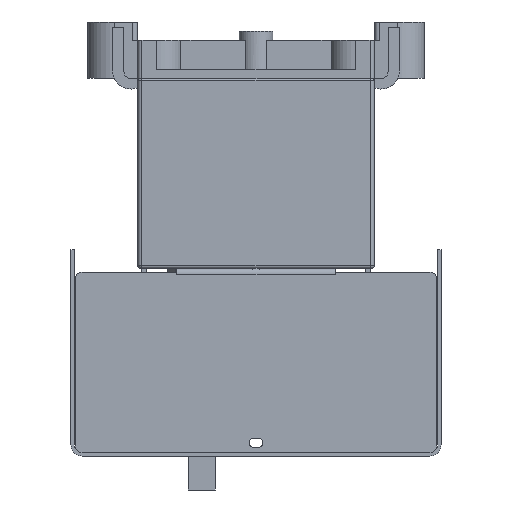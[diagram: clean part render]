
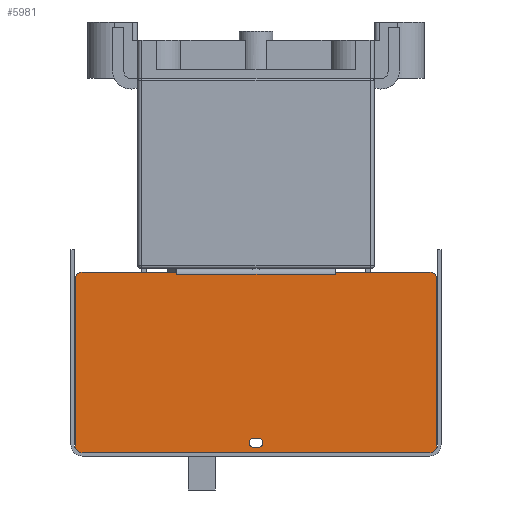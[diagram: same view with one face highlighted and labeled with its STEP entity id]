
A CAD part, left-side view. The second image highlights one B-rep face of the part: STEP entity #5981.
In plain terms, the highlighted planar face has unit normal (-1, 0, 0).
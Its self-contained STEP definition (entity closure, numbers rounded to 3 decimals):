
#610=FACE_BOUND('',#9011,.T.);
#611=FACE_BOUND('',#9012,.T.);
#2213=LINE('',#33514,#4461);
#2220=LINE('',#33532,#4468);
#2226=LINE('',#33549,#4474);
#2230=LINE('',#33562,#4478);
#2235=LINE('',#33579,#4483);
#2236=LINE('',#33584,#4484);
#2241=LINE('',#33597,#4489);
#2242=LINE('',#33599,#4490);
#2243=LINE('',#33601,#4491);
#2244=LINE('',#33603,#4492);
#2245=LINE('',#33605,#4493);
#2246=LINE('',#33607,#4494);
#4461=VECTOR('',#27203,1.);
#4468=VECTOR('',#27216,1.);
#4474=VECTOR('',#27230,1.);
#4478=VECTOR('',#27242,1.);
#4483=VECTOR('',#27261,1.);
#4484=VECTOR('',#27270,1.);
#4489=VECTOR('',#27283,1.);
#4490=VECTOR('',#27286,1.);
#4491=VECTOR('',#27287,1.);
#4492=VECTOR('',#27288,1.);
#4493=VECTOR('',#27289,1.);
#4494=VECTOR('',#27290,1.);
#5981=ADVANCED_FACE('',(#610,#611),#6893,.T.);
#6893=PLANE('',#22760);
#9011=EDGE_LOOP('',(#13243,#13244,#13245,#13246,#13247,#13248,#13249,#13250,
#13251,#13252,#13253,#13254,#13255,#13256));
#9012=EDGE_LOOP('',(#13257,#13258,#13259,#13260));
#13243=ORIENTED_EDGE('',*,*,#19647,.F.);
#13244=ORIENTED_EDGE('',*,*,#19648,.T.);
#13245=ORIENTED_EDGE('',*,*,#19649,.T.);
#13246=ORIENTED_EDGE('',*,*,#19650,.T.);
#13247=ORIENTED_EDGE('',*,*,#19651,.F.);
#13248=ORIENTED_EDGE('',*,*,#19639,.T.);
#13249=ORIENTED_EDGE('',*,*,#19644,.T.);
#13250=ORIENTED_EDGE('',*,*,#19627,.T.);
#13251=ORIENTED_EDGE('',*,*,#19630,.T.);
#13252=ORIENTED_EDGE('',*,*,#19605,.T.);
#13253=ORIENTED_EDGE('',*,*,#19633,.T.);
#13254=ORIENTED_EDGE('',*,*,#19636,.T.);
#13255=ORIENTED_EDGE('',*,*,#19638,.T.);
#13256=ORIENTED_EDGE('',*,*,#19613,.T.);
#13257=ORIENTED_EDGE('',*,*,#19617,.T.);
#13258=ORIENTED_EDGE('',*,*,#19621,.T.);
#13259=ORIENTED_EDGE('',*,*,#19624,.T.);
#13260=ORIENTED_EDGE('',*,*,#19646,.T.);
#16622=VERTEX_POINT('',#32343);
#16667=VERTEX_POINT('',#32440);
#16951=VERTEX_POINT('',#33531);
#16952=VERTEX_POINT('',#33533);
#16955=VERTEX_POINT('',#33540);
#16956=VERTEX_POINT('',#33542);
#16958=VERTEX_POINT('',#33548);
#16960=VERTEX_POINT('',#33554);
#16963=VERTEX_POINT('',#33561);
#16964=VERTEX_POINT('',#33563);
#16966=VERTEX_POINT('',#33572);
#16968=VERTEX_POINT('',#33578);
#16969=VERTEX_POINT('',#33585);
#16970=VERTEX_POINT('',#33586);
#16973=VERTEX_POINT('',#33600);
#16974=VERTEX_POINT('',#33602);
#16975=VERTEX_POINT('',#33604);
#16976=VERTEX_POINT('',#33606);
#19605=EDGE_CURVE('',#16622,#16667,#2213,.T.);
#19613=EDGE_CURVE('',#16952,#16951,#2220,.T.);
#19617=EDGE_CURVE('',#16956,#16955,#21263,.T.);
#19621=EDGE_CURVE('',#16955,#16958,#2226,.T.);
#19624=EDGE_CURVE('',#16958,#16960,#21265,.T.);
#19627=EDGE_CURVE('',#16964,#16963,#2230,.T.);
#19630=EDGE_CURVE('',#16963,#16622,#21267,.T.);
#19633=EDGE_CURVE('',#16667,#16966,#21269,.T.);
#19636=EDGE_CURVE('',#16966,#16968,#2235,.T.);
#19638=EDGE_CURVE('',#16968,#16952,#21271,.T.);
#19639=EDGE_CURVE('',#16969,#16970,#2236,.T.);
#19644=EDGE_CURVE('',#16970,#16964,#21273,.T.);
#19646=EDGE_CURVE('',#16960,#16956,#2241,.T.);
#19647=EDGE_CURVE('',#16973,#16951,#2242,.T.);
#19648=EDGE_CURVE('',#16973,#16974,#2243,.T.);
#19649=EDGE_CURVE('',#16974,#16975,#2244,.T.);
#19650=EDGE_CURVE('',#16975,#16976,#2245,.T.);
#19651=EDGE_CURVE('',#16969,#16976,#2246,.T.);
#21263=CIRCLE('',#22738,2.1);
#21265=CIRCLE('',#22742,2.1);
#21267=CIRCLE('',#22746,3.);
#21269=CIRCLE('',#22749,3.);
#21271=CIRCLE('',#22753,3.);
#21273=CIRCLE('',#22757,3.);
#22738=AXIS2_PLACEMENT_3D('',#33541,#27223,#27224);
#22742=AXIS2_PLACEMENT_3D('',#33555,#27236,#27237);
#22746=AXIS2_PLACEMENT_3D('',#33567,#27248,#27249);
#22749=AXIS2_PLACEMENT_3D('',#33573,#27255,#27256);
#22753=AXIS2_PLACEMENT_3D('',#33582,#27266,#27267);
#22757=AXIS2_PLACEMENT_3D('',#33594,#27278,#27279);
#22760=AXIS2_PLACEMENT_3D('',#33608,#27291,#27292);
#27203=DIRECTION('',(0.,-1.,0.));
#27216=DIRECTION('',(0.,1.,0.));
#27223=DIRECTION('',(1.,0.,0.));
#27224=DIRECTION('',(0.,1.,0.));
#27230=DIRECTION('',(0.,-1.,0.));
#27236=DIRECTION('',(1.,0.,0.));
#27237=DIRECTION('',(0.,1.,0.));
#27242=DIRECTION('',(0.,0.,-1.));
#27248=DIRECTION('',(-1.,0.,0.));
#27249=DIRECTION('',(0.,1.,0.));
#27255=DIRECTION('',(-1.,0.,0.));
#27256=DIRECTION('',(0.,1.,0.));
#27261=DIRECTION('',(0.,0.,1.));
#27266=DIRECTION('',(-1.,0.,0.));
#27267=DIRECTION('',(0.,1.,0.));
#27270=DIRECTION('',(0.,1.,0.));
#27278=DIRECTION('',(-1.,0.,0.));
#27279=DIRECTION('',(0.,1.,0.));
#27283=DIRECTION('',(0.,1.,0.));
#27286=DIRECTION('',(0.,0.,1.));
#27287=DIRECTION('',(0.,1.,0.));
#27288=DIRECTION('',(0.,1.,0.));
#27289=DIRECTION('',(0.,1.,0.));
#27290=DIRECTION('',(0.,0.,-1.));
#27291=DIRECTION('',(-1.,0.,0.));
#27292=DIRECTION('',(0.,-1.,0.));
#32343=CARTESIAN_POINT('',(-189.3,77.,-165.8));
#32440=CARTESIAN_POINT('',(-189.3,-77.,-165.8));
#33514=CARTESIAN_POINT('',(-189.3,77.,-165.8));
#33531=CARTESIAN_POINT('',(-189.3,-35.002,-85.8));
#33532=CARTESIAN_POINT('',(-189.3,-77.,-85.8));
#33533=CARTESIAN_POINT('',(-189.3,-77.,-85.8));
#33540=CARTESIAN_POINT('',(-189.3,1.,-159.3));
#33541=CARTESIAN_POINT('',(-189.3,1.,-161.4));
#33542=CARTESIAN_POINT('',(-189.3,1.,-163.5));
#33548=CARTESIAN_POINT('',(-189.3,-1.,-159.3));
#33549=CARTESIAN_POINT('',(-189.3,1.,-159.3));
#33554=CARTESIAN_POINT('',(-189.3,-1.,-163.5));
#33555=CARTESIAN_POINT('',(-189.3,-1.,-161.4));
#33561=CARTESIAN_POINT('',(-189.3,80.,-162.8));
#33562=CARTESIAN_POINT('',(-189.3,80.,-88.8));
#33563=CARTESIAN_POINT('',(-189.3,80.,-88.8));
#33567=CARTESIAN_POINT('',(-189.3,77.,-162.8));
#33572=CARTESIAN_POINT('',(-189.3,-80.,-162.8));
#33573=CARTESIAN_POINT('',(-189.3,-77.,-162.8));
#33578=CARTESIAN_POINT('',(-189.3,-80.,-88.8));
#33579=CARTESIAN_POINT('',(-189.3,-80.,-162.8));
#33582=CARTESIAN_POINT('',(-189.3,-77.,-88.8));
#33584=CARTESIAN_POINT('',(-189.3,-77.,-85.8));
#33585=CARTESIAN_POINT('',(-189.3,35.002,-85.8));
#33586=CARTESIAN_POINT('',(-189.3,77.,-85.8));
#33594=CARTESIAN_POINT('',(-189.3,77.,-88.8));
#33597=CARTESIAN_POINT('',(-189.3,-1.,-163.5));
#33599=CARTESIAN_POINT('',(-189.3,-35.002,-162.8));
#33600=CARTESIAN_POINT('',(-189.3,-35.002,-86.8));
#33601=CARTESIAN_POINT('',(-189.3,77.,-86.8));
#33602=CARTESIAN_POINT('',(-189.3,-35.,-86.8));
#33603=CARTESIAN_POINT('',(-189.3,50.5,-86.8));
#33604=CARTESIAN_POINT('',(-189.3,35.,-86.8));
#33605=CARTESIAN_POINT('',(-189.3,77.,-86.8));
#33606=CARTESIAN_POINT('',(-189.3,35.002,-86.8));
#33607=CARTESIAN_POINT('',(-189.3,35.002,-162.8));
#33608=CARTESIAN_POINT('',(-189.3,77.,-162.8));
